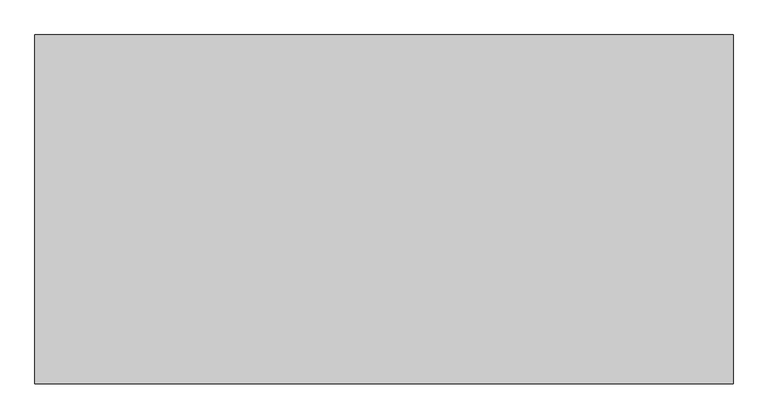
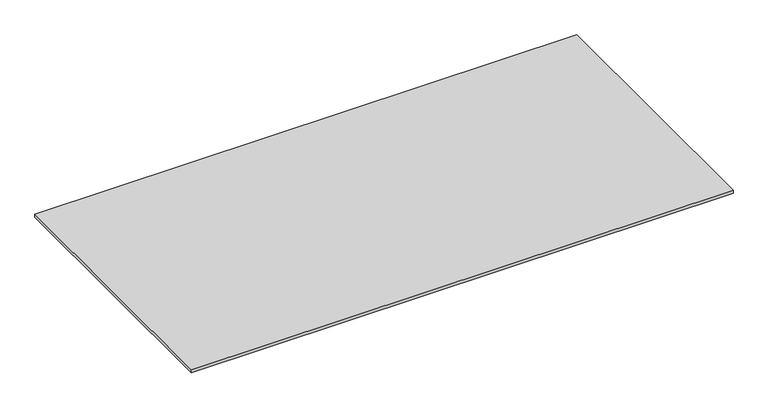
"""IFC4 building model written with IfcOpenShell, lengths in millimetres: furniture geometry, BELENCO_Minta_5113_165cmx330cm : BELENCO__Minta_5113_165cm*330cm."""

from ifc_helpers import new_model, si_unit, origin, origin_with_axes, place, context, project, spatial, polyline, outline, extrude, source, transform, mapped, element, save


def furniture_ea33b4cf(model_context):
    return source(origin(), model_context, "Body", "SweptSolid", [
        extrude(outline(polyline([(1650.0, 825.0), (1650.0, -825.0), (-1650.0, -825.0), (-1650.0, 825.0), (1650.0, 825.0)])), origin_with_axes(), (0.0, 0.0, 1.0), 20.0),
    ])


if __name__ == "__main__":
    model = new_model("IFC4")
    model_context = context("Model", 3, world=origin())
    ifc_project = project(units=[si_unit("LENGTHUNIT", "METRE", prefix="MILLI")], contexts=[model_context])
    site = spatial("IfcSite", under=ifc_project)
    building = spatial("IfcBuilding", under=site)
    placement = place(None, origin())
    furniture_shape = furniture_ea33b4cf(model_context)
    element("IfcFurniture", 1, ObjectType="BELENCO_Minta_5113_165cmx330cm : BELENCO__Minta_5113_165cm*330cm", at=placement, inside=building, context=model_context, shape_type="MappedRepresentation", body=[
        mapped(furniture_shape, transform((0.0, 0.0, 0.0), x_axis=(1.0, 0.0, 0.0), y_axis=(0.0, 1.0, 0.0), z_axis=(0.0, 0.0, 1.0))),
    ])
    save(model, "model.ifc")
